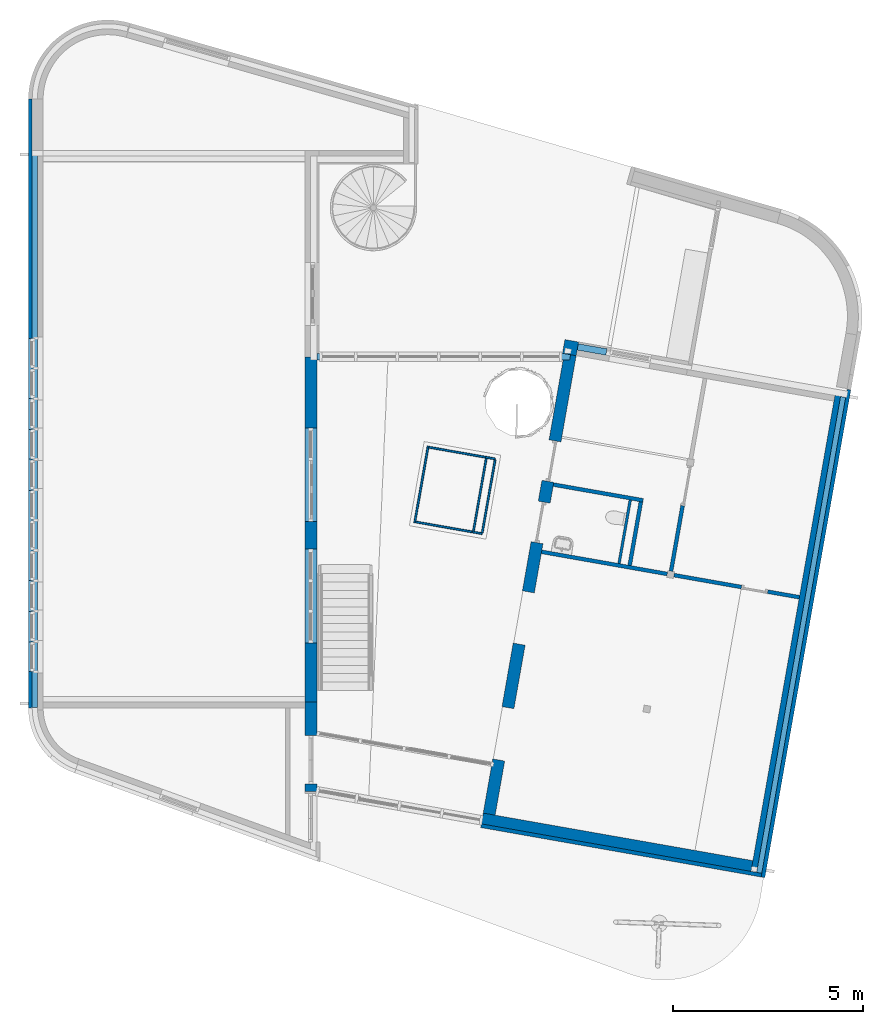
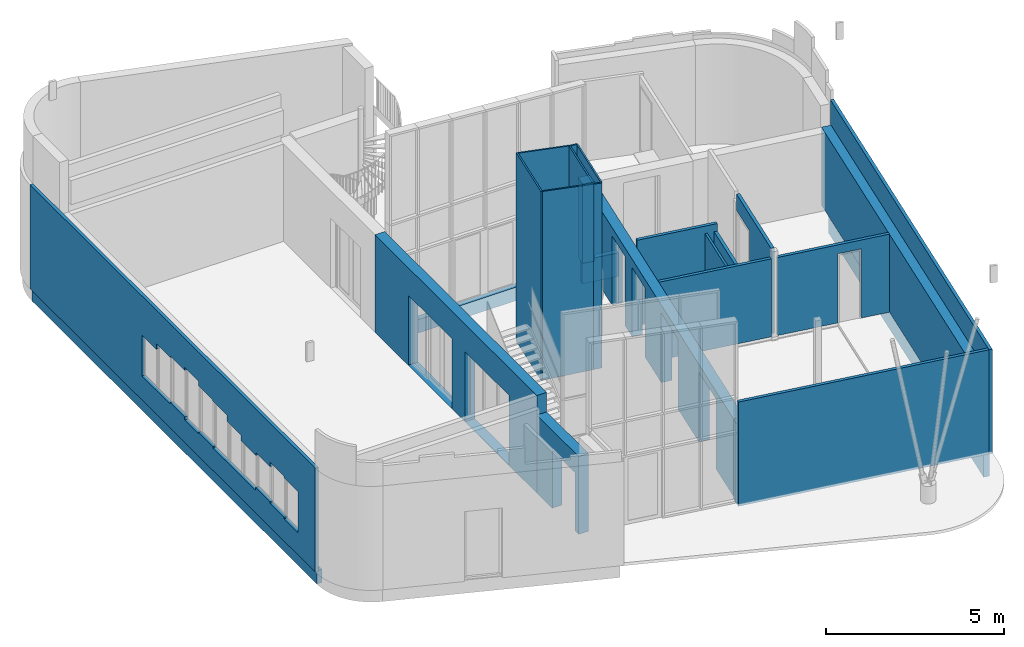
# One storey, part 11 of 21: 26 walls, 11 openings.
"""IFC2X3 building model written with IfcOpenShell, lengths in millimetres."""

from ifc_helpers import new_model, entity, si_unit, converted_unit, derived_unit, direction, frame, frame_2d, origin, origin_2d_with_axis, place, context, subcontext, project, spatial, polyline, rectangle, outline, extrude, clip, bounded_halfspace, material, layer, layer_set, layer_usage, type_object, element, save


model = new_model("IFC2X3")

# Units and contexts
model_context = context("Model", 3, precision=0.01, world=origin(), true_north=direction((6.12303176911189e-17, 1.0)))
body_context = subcontext(model_context, "Body", "Model", "MODEL_VIEW")
ifc_project = project(units=[si_unit("LENGTHUNIT", "METRE", prefix="MILLI"), si_unit("AREAUNIT", "SQUARE_METRE"), si_unit("VOLUMEUNIT", "CUBIC_METRE"), converted_unit("PLANEANGLEUNIT", "DEGREE", entity("IfcRatioMeasure", 0.0174532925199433), si_unit("PLANEANGLEUNIT", "RADIAN"), dimensions=[0, 0, 0, 0, 0, 0, 0]), si_unit("MASSUNIT", "GRAM", prefix="KILO"), derived_unit("MASSDENSITYUNIT", [(si_unit("MASSUNIT", "GRAM", prefix="KILO"), 1), (si_unit("LENGTHUNIT", "METRE"), -3)]), si_unit("TIMEUNIT", "SECOND"), si_unit("FREQUENCYUNIT", "HERTZ"), si_unit("THERMODYNAMICTEMPERATUREUNIT", "DEGREE_CELSIUS"), derived_unit("THERMALTRANSMITTANCEUNIT", [(si_unit("MASSUNIT", "GRAM", prefix="KILO"), 1), (si_unit("THERMODYNAMICTEMPERATUREUNIT", "KELVIN"), -1), (si_unit("TIMEUNIT", "SECOND"), -3)]), derived_unit("VOLUMETRICFLOWRATEUNIT", [(si_unit("LENGTHUNIT", "METRE"), 3), (si_unit("TIMEUNIT", "SECOND"), -1)]), si_unit("ELECTRICCURRENTUNIT", "AMPERE"), si_unit("ELECTRICVOLTAGEUNIT", "VOLT"), si_unit("POWERUNIT", "WATT"), si_unit("FORCEUNIT", "NEWTON", prefix="KILO"), si_unit("ILLUMINANCEUNIT", "LUX"), si_unit("LUMINOUSFLUXUNIT", "LUMEN"), si_unit("LUMINOUSINTENSITYUNIT", "CANDELA"), derived_unit("USERDEFINED", [(si_unit("MASSUNIT", "GRAM", prefix="KILO"), -1), (si_unit("LENGTHUNIT", "METRE"), -2), (si_unit("TIMEUNIT", "SECOND"), 3), (si_unit("LUMINOUSFLUXUNIT", "LUMEN"), 1)]), derived_unit("LINEARVELOCITYUNIT", [(si_unit("LENGTHUNIT", "METRE"), 1), (si_unit("TIMEUNIT", "SECOND"), -1)]), si_unit("PRESSUREUNIT", "PASCAL"), derived_unit("USERDEFINED", [(si_unit("LENGTHUNIT", "METRE"), -2), (si_unit("MASSUNIT", "GRAM", prefix="KILO"), 1), (si_unit("TIMEUNIT", "SECOND"), -2)])], contexts=[model_context])

# Site, building, storey
site_placement = place(None, origin())
site = spatial("IfcSite", under=ifc_project, at=site_placement, Name="<Kadaster Gemeente>;<Kadaster nummer>;<Kadaster sectie>", CompositionType="ELEMENT")
building_placement = place(site_placement, origin())
building = spatial("IfcBuilding", under=site, at=building_placement, Name="JRCZ Middelburg", CompositionType="ELEMENT")
storey_placement = place(building_placement, origin())
storey = spatial("IfcBuildingStorey", under=building, at=storey_placement, Name="00 begane grond", CompositionType="ELEMENT", Elevation=0.0)

# Wall, openings
ifc_material_1 = material(Name="RBM_f7_gips_beplating wand")
ifc_layer_1 = layer(ifc_material_1, 12.5)
ifc_material_2 = material(Name="RBM_i4_multiplex_beplating")
ifc_layer_2 = layer(ifc_material_2, 18.0)
ifc_material_3 = material(Name="isolatie_steenwol_hsb_270")
ifc_layer_3 = layer(ifc_material_3, 270.0)
ifc_layer_4 = layer(ifc_material_2, 18.0)
ifc_layer_set_1 = layer_set([ifc_layer_1, ifc_layer_2, ifc_layer_3, ifc_layer_4], Name="Basic Wall:22_hsb_binnenwand_gips_318,5mm")
ifc_layer_usage_1 = layer_usage(ifc_layer_set_1, "AXIS2", "NEGATIVE", 159.25)
wall_type_1 = type_object("IfcWallType", Name="Basic Wall:22_hsb_binnenwand_gips_318,5mm", PredefinedType="STANDARD", material=ifc_layer_set_1)
wall_1_placement = place(storey_placement, frame((17209.2500000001, 19103.6233878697, -10.0), z_axis=(0.0, 0.0, 1.0), x_axis=(0.0, -1.0, 0.0)))
wall_1 = element("IfcWallStandardCase", 1, at=wall_1_placement, inside=storey, type_object=wall_type_1, material=ifc_layer_usage_1, Name="Basic Wall:22_hsb_binnenwand_gips_318,5mm", ObjectType="Basic Wall:22_hsb_binnenwand_gips_318,5mm", context=body_context, shape_type="SweptSolid", body=[
    extrude(rectangle(XDim=9103.62338786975, YDim=318.500000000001, at=frame_2d((4551.81169393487, 0.0), x_axis=(-1.0, 0.0))), origin(), (0.0, 0.0, 1.0), 3355.0),
])
opening_1_placement = place(storey_placement, frame((17209.2500000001, 19103.6233878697, -10.0), z_axis=(0.0, 0.0, 1.0), x_axis=(0.0, -1.0, 0.0)))
element("IfcOpeningElement", 2, at=opening_1_placement, cuts=wall_1, Name="Basic Wall:22_hsb_binnenwand_gips_318,5mm:1", ObjectType="Opening", context=body_context, shape_type="SweptSolid", body=[
    extrude(outline(polyline([(-668.369513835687, -25.2448096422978), (659.46828483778, -25.2448096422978), (668.371478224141, 25.2448096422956), (-659.470249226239, 25.2448096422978), (-668.369513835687, -25.2448096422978)])), frame((4577.87402907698, 134.005190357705, 2960.0)), (0.0, 0.0, 1.0), 50.0),
])
opening_2_placement = place(wall_1_placement, origin())
element("IfcOpeningElement", 3, at=opening_2_placement, cuts=wall_1, Name="Basic Wall:22_hsb_binnenwand_gips_318,5mm", ObjectType="Opening", context=body_context, shape_type="SweptSolid", body=[
    extrude(rectangle(XDim=2400.0, YDim=2467.0, at=frame_2d((-2.1600499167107e-12, 0.0), x_axis=(0.0, 1.0))), frame((6303.62338817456, -311.649999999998, 1210.0), z_axis=(0.0, 1.0, 0.0), x_axis=(-1.0, 0.0, 0.0)), (0.0, 0.0, 1.0), 623.299999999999),
])
opening_3_placement = place(wall_1_placement, origin())
element("IfcOpeningElement", 4, at=opening_3_placement, cuts=wall_1, Name="Basic Wall:22_hsb_binnenwand_gips_318,5mm", ObjectType="Opening", context=body_context, shape_type="SweptSolid", body=[
    extrude(rectangle(XDim=2400.0, YDim=2467.0, at=frame_2d((2.1600499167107e-12, 0.0), x_axis=(0.0, 1.0))), frame((3103.62338817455, -311.649999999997, 1210.0), z_axis=(0.0, 1.0, 0.0), x_axis=(-1.0, 0.0, 0.0)), (0.0, 0.0, 1.0), 623.299999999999),
])

ifc_layer_usage_2 = layer_usage(ifc_layer_set_1, "AXIS2", "NEGATIVE", 159.25)
wall_2_placement = place(storey_placement, frame((21908.3733252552, 7049.61056927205, 0.0), z_axis=(0.0, 0.0, 1.0), x_axis=(0.17364817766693, 0.984807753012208, 0.0)))
wall_2 = element("IfcWallStandardCase", 5, at=wall_2_placement, inside=storey, type_object=wall_type_1, material=ifc_layer_usage_2, Name="Basic Wall:22_hsb_binnenwand_gips_318,5mm", ObjectType="Basic Wall:22_hsb_binnenwand_gips_318,5mm", context=body_context, shape_type="SweptSolid", body=[
    extrude(rectangle(XDim=12300.0, YDim=318.5, at=frame_2d((6149.99999999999, -8.5265128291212e-13), x_axis=(-1.0, 0.0))), origin(), (0.0, 0.0, 1.0), 2666.0),
])
opening_4_placement = place(wall_2_placement, origin())
element("IfcOpeningElement", 6, at=opening_4_placement, cuts=wall_2, Name="Basic Wall:22_hsb_binnenwand_gips_318,5mm", ObjectType="Opening", context=body_context, shape_type="SweptSolid", body=[
    extrude(rectangle(XDim=2400.0, YDim=1400.00000000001, at=origin_2d_with_axis()), frame((5250.0, -159.25, 1200.0), z_axis=(0.0, 1.0, 0.0), x_axis=(0.0, 0.0, -1.0)), (0.0, 0.0, 1.0), 318.499999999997),
])
opening_5_placement = place(wall_2_placement, origin())
element("IfcOpeningElement", 7, at=opening_5_placement, cuts=wall_2, Name="Basic Wall:22_hsb_binnenwand_gips_318,5mm", ObjectType="Opening", context=body_context, shape_type="SweptSolid", body=[
    extrude(rectangle(XDim=2400.0, YDim=1400.0, at=frame_2d((0.0, -1.02318153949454e-12), x_axis=(1.0, 0.0))), frame((2150.0, -159.249999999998, 1200.0), z_axis=(0.0, 1.0, 0.0), x_axis=(0.0, 0.0, -1.0)), (0.0, 0.0, 1.0), 318.499999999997),
])
opening_6_placement = place(wall_2_placement, frame((-10746.8602479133, 20351.3838779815, 0.0), z_axis=(0.0, 0.0, 1.0), x_axis=(0.17364817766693, -0.984807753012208, 0.0)))
element("IfcOpeningElement", 8, at=opening_6_placement, cuts=wall_2, Name="Basic Wall:22_hsb_binnenwand_gips_318,5mm", ObjectType="Opening", context=body_context, shape_type="SweptSolid", body=[
    extrude(rectangle(XDim=2377.0, YDim=1084.0, at=frame_2d((1.4210854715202e-12, 0.0), x_axis=(0.0, 1.0))), frame((24893.3649851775, 16119.0574850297, 1188.5), z_axis=(-0.984807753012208, 0.17364817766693, 0.0), x_axis=(-0.17364817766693, -0.984807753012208, 0.0)), (0.0, 0.0, 1.0), 3048.0),
])
opening_7_placement = place(wall_2_placement, frame((-10746.8602479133, 20351.3838779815, 0.0), z_axis=(0.0, 0.0, 1.0), x_axis=(0.17364817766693, -0.984807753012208, 0.0)))
element("IfcOpeningElement", 9, at=opening_7_placement, cuts=wall_2, Name="Basic Wall:22_hsb_binnenwand_gips_318,5mm", ObjectType="Opening", context=body_context, shape_type="SweptSolid", body=[
    extrude(rectangle(XDim=2377.0, YDim=1084.0, at=frame_2d((0.0, -1.4210854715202e-12), x_axis=(1.0, 0.0))), frame((24921.8959467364, 14446.6962097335, 1188.5), z_axis=(-0.984807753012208, 0.17364817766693, 0.0), x_axis=(0.0, 0.0, 1.0)), (0.0, 0.0, 1.0), 3048.0),
])

# Wall, opening
ifc_layer_usage_3 = layer_usage(ifc_layer_set_1, "AXIS2", "NEGATIVE", 159.25)
wall_3_placement = place(storey_placement, frame((17209.2500000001, 10000.0, 0.0), z_axis=(0.0, 0.0, 1.0), x_axis=(0.0, -1.0, 0.0)))
wall_3 = element("IfcWallStandardCase", 10, at=wall_3_placement, inside=storey, type_object=wall_type_1, material=ifc_layer_usage_3, Name="Basic Wall:22_hsb_binnenwand_gips_318,5mm", ObjectType="Basic Wall:22_hsb_binnenwand_gips_318,5mm", context=body_context, shape_type="SweptSolid", body=[
    extrude(rectangle(XDim=2351.37637520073, YDim=318.500000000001, at=frame_2d((1175.68818760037, -2.1316282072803e-13), x_axis=(-1.0, 0.0))), origin(), (0.0, 0.0, 1.0), 2676.0),
])
opening_8_placement = place(wall_3_placement, origin())
element("IfcOpeningElement", 11, at=opening_8_placement, cuts=wall_3, Name="Basic Wall:22_hsb_binnenwand_gips_318,5mm", ObjectType="Opening", context=body_context, shape_type="SweptSolid", body=[
    extrude(rectangle(XDim=2000.0, YDim=1280.0, at=frame_2d((0.0, 0.0), x_axis=(0.0, 1.0))), frame((1511.25921397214, -311.65, 1000.0), z_axis=(0.0, 1.0, 0.0), x_axis=(-1.0, 0.0, 0.0)), (0.0, 0.0, 1.0), 623.299999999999),
])

# Walls
ifc_material_4 = material(Name="RBM_a_metalstudwand")
ifc_layer_5 = layer(ifc_material_4, 100.0)
ifc_layer_set_2 = layer_set([ifc_layer_5], Name="Basic Wall:WA_22_metalstud_binnenwand_100mm")
ifc_layer_usage_4 = layer_usage(ifc_layer_set_2, "AXIS2", "NEGATIVE", 50.0)
wall_type_2 = type_object("IfcWallType", Name="Basic Wall:WA_22_metalstud_binnenwand_100mm", PredefinedType="STANDARD", material=ifc_layer_set_2)
wall_4_placement = place(storey_placement, frame((23448.3603228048, 15764.5948268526, 0.0), z_axis=(0.0, 0.0, 1.0), x_axis=(0.984807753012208, -0.173648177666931, 0.0)))
element("IfcWallStandardCase", 12, at=wall_4_placement, inside=storey, type_object=wall_type_2, material=ifc_layer_usage_4, Name="Basic Wall:WA_22_metalstud_binnenwand_100mm", ObjectType="Basic Wall:WA_22_metalstud_binnenwand_100mm", context=body_context, shape_type="Clipping", body=[
    clip(extrude(rectangle(XDim=2400.0, YDim=100.0, at=frame_2d((1356.0, -2.20268248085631e-13), x_axis=(-1.0, 0.0))), origin(), (0.0, 0.0, 1.0), 2936.0), bounded_halfspace(frame((0.0, -50.0, 2936.0), z_axis=(0.0, 0.0, -1.0), x_axis=(0.0, -1.0, 0.0)), True, frame((0.0, -50.0, 2936.0)), polyline([(0.0, 0.0), (2556.0, 0.0), (2556.0, 100.0), (0.0, 100.0), (0.0, 0.0)]))),
])
ifc_layer_usage_5 = layer_usage(ifc_layer_set_2, "AXIS2", "NEGATIVE", 50.0)
wall_5_placement = place(storey_placement, frame((25907.60614297, 15280.1921059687, 0.0), z_axis=(0.0, 0.0, 1.0), x_axis=(-0.173648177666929, -0.984807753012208, 0.0)))
element("IfcWallStandardCase", 13, at=wall_5_placement, inside=storey, type_object=wall_type_2, material=ifc_layer_usage_5, Name="Basic Wall:WA_22_metalstud_binnenwand_100mm", ObjectType="Basic Wall:WA_22_metalstud_binnenwand_100mm", context=body_context, shape_type="SweptSolid", body=[
    extrude(rectangle(XDim=1700.0, YDim=99.999999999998, at=frame_2d((850.000000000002, -7.99360577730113e-13), x_axis=(-1.0, 0.0))), origin(), (0.0, 0.0, 1.0), 2680.0),
])
ifc_layer_usage_6 = layer_usage(ifc_layer_set_2, "AXIS2", "NEGATIVE", 50.0)
wall_6_placement = place(storey_placement, frame((23289.4236124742, 13964.8517557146, 0.0), z_axis=(0.0, 0.0, 1.0), x_axis=(0.984807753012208, -0.173648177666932, 0.0)))
element("IfcWallStandardCase", 14, at=wall_6_placement, inside=storey, type_object=wall_type_2, material=ifc_layer_usage_6, Name="Basic Wall:WA_22_metalstud_binnenwand_100mm", ObjectType="Basic Wall:WA_22_metalstud_binnenwand_100mm", context=body_context, shape_type="SweptSolid", body=[
    extrude(rectangle(XDim=3364.00000000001, YDim=99.9999999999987, at=frame_2d((1682.0, 6.32383034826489e-13), x_axis=(-1.0, 0.0))), origin(), (0.0, 0.0, 1.0), 2680.0),
])

# Wall, opening
ifc_layer_usage_7 = layer_usage(ifc_layer_set_2, "AXIS2", "NEGATIVE", 50.0)
wall_7_placement = place(storey_placement, frame((26779.5822891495, 13349.442614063, 0.0), z_axis=(0.0, 0.0, 1.0), x_axis=(0.984807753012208, -0.173648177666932, 0.0)))
wall_7 = element("IfcWallStandardCase", 15, at=wall_7_placement, inside=storey, type_object=wall_type_2, material=ifc_layer_usage_7, Name="Basic Wall:WA_22_metalstud_binnenwand_100mm", ObjectType="Basic Wall:WA_22_metalstud_binnenwand_100mm", context=body_context, shape_type="SweptSolid", body=[
    extrude(rectangle(XDim=3356.0, YDim=99.9999999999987, at=frame_2d((1678.0, -1.06581410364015e-14), x_axis=(-1.0, 0.0))), origin(), (0.0, 0.0, 1.0), 2680.0),
])
opening_9_placement = place(wall_7_placement, frame((-24054.6338779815, -17796.8602479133, 0.0), z_axis=(0.0, 0.0, 1.0), x_axis=(0.984807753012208, 0.173648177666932, 0.0)))
element("IfcOpeningElement", 16, at=opening_9_placement, cuts=wall_7, Name="Basic Wall:WA_22_metalstud_binnenwand_100mm", ObjectType="Opening", context=body_context, shape_type="SweptSolid", body=[
    extrude(rectangle(XDim=2377.0, YDim=704.000000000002, at=frame_2d((0.0, 2.1316282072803e-12), x_axis=(1.0, 0.0))), frame((28648.8400062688, 11523.1032187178, 1188.5), z_axis=(0.173648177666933, 0.984807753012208, 0.0), x_axis=(0.0, 0.0, 1.0)), (0.0, 0.0, 1.0), 3048.0),
])

ifc_layer_usage_8 = layer_usage(ifc_layer_set_2, "AXIS2", "NEGATIVE", 50.0)
wall_8_placement = place(storey_placement, frame((27194.9312800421, 16246.3282203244, 0.0), z_axis=(0.0, 0.0, 1.0), x_axis=(-0.173648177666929, -0.984807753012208, 0.0)))
wall_8 = element("IfcWallStandardCase", 17, at=wall_8_placement, inside=storey, type_object=wall_type_2, material=ifc_layer_usage_8, Name="Basic Wall:WA_22_metalstud_binnenwand_100mm", ObjectType="Basic Wall:WA_22_metalstud_binnenwand_100mm", context=body_context, shape_type="Clipping", body=[
    clip(extrude(rectangle(XDim=2835.0, YDim=99.9999999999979, at=frame_2d((1417.5, 7.24753590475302e-13), x_axis=(-1.0, 0.0))), origin(), (0.0, 0.0, 1.0), 2936.0), bounded_halfspace(frame((0.0, -50.0, 2936.0), z_axis=(0.0, 0.0, -1.0), x_axis=(1.0, 0.0, 0.0)), True, frame((0.0, -50.0, 2936.0)), polyline([(0.0, 0.0), (2835.0, 0.0), (2835.0, 100.0), (0.0, 100.0), (0.0, 0.0)]))),
])
opening_10_placement = place(wall_8_placement, frame((20721.8602479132, -23960.6338779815, 0.0), z_axis=(0.0, 0.0, 1.0), x_axis=(-0.173648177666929, 0.984807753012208, 0.0)))
element("IfcOpeningElement", 18, at=opening_10_placement, cuts=wall_8, Name="Basic Wall:WA_22_metalstud_binnenwand_100mm", ObjectType="Opening", context=body_context, shape_type="SweptSolid", body=[
    extrude(rectangle(XDim=2377.0, YDim=1084.0, at=frame_2d((0.0, 1.4210854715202e-12), x_axis=(1.0, 0.0))), frame((25550.7265645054, 15985.8846498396, 1188.5), z_axis=(0.984807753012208, -0.17364817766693, 0.0), x_axis=(0.0, 0.0, 1.0)), (0.0, 0.0, 1.0), 3048.0),
])

# Walls
ifc_layer_6 = layer(ifc_material_3, 270.0)
ifc_layer_7 = layer(ifc_material_2, 18.0)
ifc_layer_set_3 = layer_set([ifc_layer_6, ifc_layer_7], Name="Basic Wall:RBM_21_WA_hsb_288mm")
ifc_layer_usage_9 = layer_usage(ifc_layer_set_3, "AXIS2", "NEGATIVE", 144.0)
wall_type_3 = type_object("IfcWallType", Name="Basic Wall:RBM_21_WA_hsb_288mm", PredefinedType="STANDARD", material=ifc_layer_set_3)
wall_9_placement = place(storey_placement, frame((31191.1986998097, 18213.2658679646, -10.0), z_axis=(0.0, 0.0, 1.0), x_axis=(-0.17364817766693, -0.984807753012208, 0.0)))
element("IfcWallStandardCase", 19, at=wall_9_placement, inside=storey, type_object=wall_type_3, material=ifc_layer_usage_9, Name="Basic Wall:RBM_21_WA_hsb_288mm", ObjectType="Basic Wall:RBM_21_WA_hsb_288mm", context=body_context, shape_type="SweptSolid", body=[
    extrude(rectangle(XDim=12894.0, YDim=288.0, at=frame_2d((6447.0, -5.40012479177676e-13), x_axis=(-1.0, 0.0))), origin(), (0.0, 0.0, 1.0), 2676.0),
])
ifc_layer_usage_10 = layer_usage(ifc_layer_set_3, "AXIS2", "NEGATIVE", 144.0)
wall_10_placement = place(storey_placement, frame((28835.3721181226, 5681.97235464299, -80.0), z_axis=(0.0, 0.0, 1.0), x_axis=(-0.984807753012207, 0.173648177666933, 0.0)))
element("IfcWallStandardCase", 20, at=wall_10_placement, inside=storey, type_object=wall_type_3, material=ifc_layer_usage_10, Name="Basic Wall:RBM_21_WA_hsb_288mm", ObjectType="Basic Wall:RBM_21_WA_hsb_288mm", context=body_context, shape_type="SweptSolid", body=[
    extrude(rectangle(XDim=7218.50000000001, YDim=288.0, at=frame_2d((3609.25, -1.4210854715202e-13), x_axis=(-1.0, 0.0))), origin(), (0.0, 0.0, 1.0), 2746.0),
])
ifc_layer_8 = layer(ifc_material_1, 12.5)
ifc_material_5 = material(Name="RBM_n7_isolatie_MS45")
ifc_layer_9 = layer(ifc_material_5, 45.0)
ifc_layer_10 = layer(ifc_material_1, 12.5)
ifc_layer_set_4 = layer_set([ifc_layer_8, ifc_layer_9, ifc_layer_10], Name="Basic Wall:22_RBM_WA_metalstud_70_12.5-45-12.5")
ifc_layer_usage_11 = layer_usage(ifc_layer_set_4, "AXIS2", "POSITIVE", -35.0)
wall_type_4 = type_object("IfcWallType", Name="Basic Wall:22_RBM_WA_metalstud_70_12.5-45-12.5", PredefinedType="STANDARD", material=ifc_layer_set_4)
wall_11_placement = place(storey_placement, frame((25626.9359333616, 15329.6818366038, 0.0), z_axis=(0.0, 0.0, 1.0), x_axis=(-0.17364817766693, -0.984807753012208, 0.0)))
element("IfcWallStandardCase", 21, at=wall_11_placement, inside=storey, type_object=wall_type_4, material=ifc_layer_usage_11, Name="Basic Wall:22_RBM_WA_metalstud_70_12.5-45-12.5", ObjectType="Basic Wall:22_RBM_WA_metalstud_70_12.5-45-12.5", context=body_context, shape_type="SweptSolid", body=[
    extrude(rectangle(XDim=1700.0, YDim=70.0000000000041, at=frame_2d((850.000000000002, 1.81543668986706e-12), x_axis=(-1.0, 0.0))), origin(), (0.0, 0.0, 1.0), 2680.0),
])
ifc_material_6 = material(Name="RBM_o1_glas_helder")
ifc_layer_11 = layer(ifc_material_6, 50.0)
ifc_layer_set_5 = layer_set([ifc_layer_11], Name="Basic Wall:22_RBM_WA_ontwerpwand-40mm_transparant")
ifc_layer_usage_12 = layer_usage(ifc_layer_set_5, "AXIS2", "NEGATIVE", 25.0)
wall_type_5 = type_object("IfcWallType", Name="Basic Wall:22_RBM_WA_ontwerpwand-40mm_transparant", PredefinedType="STANDARD", material=ifc_layer_set_5)
wall_12_placement = place(storey_placement, frame((19944.4385402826, 14731.0452868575, -20.0), z_axis=(0.0, 0.0, 1.0), x_axis=(0.17364817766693, 0.984807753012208, 0.0)))
element("IfcWallStandardCase", 22, at=wall_12_placement, inside=storey, type_object=wall_type_5, material=ifc_layer_usage_12, Name="Basic Wall:22_RBM_WA_ontwerpwand-40mm_transparant", ObjectType="Basic Wall:22_RBM_WA_ontwerpwand-40mm_transparant", context=body_context, shape_type="Clipping", body=[
    clip(extrude(rectangle(XDim=2050.0, YDim=49.9999999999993, at=frame_2d((1025.0, 1.48325796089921e-12), x_axis=(-1.0, 0.0))), origin(), (0.0, 0.0, 1.0), 6486.76741281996), bounded_halfspace(frame((0.0, -25.0, 6483.01741281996), z_axis=(0.0, 0.0747899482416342, -0.997199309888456), x_axis=(0.0, 0.997199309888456, 0.0747899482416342)), True, frame((0.0, -25.0, 6483.01741281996)), polyline([(0.0, 0.0), (50.0, 0.0), (2000.0, 0.0), (2050.0, 0.0), (2050.0, 50.0), (0.0, 50.0), (0.0, 0.0)]))),
])
ifc_layer_usage_13 = layer_usage(ifc_layer_set_5, "AXIS2", "NEGATIVE", 25.0)
wall_13_placement = place(storey_placement, frame((20320.6962938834, 16720.9397822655, -20.0), z_axis=(0.0, 0.0, 1.0), x_axis=(0.984807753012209, -0.173648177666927, 0.0)))
element("IfcWallStandardCase", 23, at=wall_13_placement, inside=storey, type_object=wall_type_5, material=ifc_layer_usage_13, Name="Basic Wall:22_RBM_WA_ontwerpwand-40mm_transparant", ObjectType="Basic Wall:22_RBM_WA_ontwerpwand-40mm_transparant", context=body_context, shape_type="Clipping", body=[
    clip(extrude(outline(polyline([(1513.51621898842, -25.0), (1513.507698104, 25.0), (0.0, 25.0), (0.0, -25.0), (1513.51621898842, -25.0)])), origin(), (0.0, 0.0, 1.0), 6483.01741281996), bounded_halfspace(frame((0.0, -25.0, 6483.01741281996), z_axis=(-0.0747899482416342, 0.0, -0.997199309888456), x_axis=(-0.997199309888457, 0.0, 0.0747899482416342)), True, frame((0.0, -25.0, 6483.01741281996)), polyline([(0.0, 0.0), (1513.51621898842, 0.0), (1513.50769810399, 50.0), (0.0, 50.0), (0.0, 0.0)]))),
])
ifc_layer_usage_14 = layer_usage(ifc_layer_set_5, "AXIS2", "NEGATIVE", 25.0)
wall_14_placement = place(storey_placement, frame((21464.2581026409, 14488.4457575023, -20.0), z_axis=(0.0, 0.0, 1.0), x_axis=(-0.984807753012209, 0.173648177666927, 0.0)))
element("IfcWallStandardCase", 24, at=wall_14_placement, inside=storey, type_object=wall_type_5, material=ifc_layer_usage_14, Name="Basic Wall:22_RBM_WA_ontwerpwand-40mm_transparant", ObjectType="Basic Wall:22_RBM_WA_ontwerpwand-40mm_transparant", context=body_context, shape_type="Clipping", body=[
    clip(extrude(outline(polyline([(1513.85705436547, -25.0), (1513.85705436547, 25.0), (0.0, 25.0), (0.00852088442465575, -25.0), (1513.85705436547, -25.0)])), origin(), (0.0, 0.0, 1.0), 6483.01741281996), bounded_halfspace(frame((0.00852088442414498, -25.0, 6369.47877280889), z_axis=(0.0747899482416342, 0.0, -0.997199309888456), x_axis=(0.997199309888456, 0.0, 0.0747899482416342)), True, frame((0.00852088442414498, -25.0, 6369.47877280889)), polyline([(0.0, 0.0), (1513.84853348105, 0.0), (1513.84853348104, 50.0), (-0.00852088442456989, 50.0), (0.0, 0.0)]))),
])
ifc_material_7 = material(Name="<Unnamed>")
ifc_layer_12 = layer(ifc_material_7, 50.0)
ifc_layer_set_6 = layer_set([ifc_layer_12], Name="Basic Wall:22_RBM_WA_ontwerpwand-40mm")
ifc_layer_usage_15 = layer_usage(ifc_layer_set_6, "AXIS2", "NEGATIVE", 25.0)
wall_type_6 = type_object("IfcWallType", Name="Basic Wall:22_RBM_WA_ontwerpwand-40mm", PredefinedType="STANDARD", material=ifc_layer_set_6)
wall_15_placement = place(storey_placement, frame((21721.4337001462, 14443.0987608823, -20.0), z_axis=(0.0, 0.0, 1.0), x_axis=(-0.984807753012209, 0.173648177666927, 0.0)))
element("IfcWallStandardCase", 25, at=wall_15_placement, inside=storey, type_object=wall_type_6, material=ifc_layer_usage_15, Name="Basic Wall:22_RBM_WA_ontwerpwand-40mm", ObjectType="Basic Wall:22_RBM_WA_ontwerpwand-40mm", context=body_context, shape_type="Clipping", body=[
    clip(extrude(outline(polyline([(261.151466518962, -25.0), (261.142945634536, 25.0), (0.0, 25.0), (0.0, -25.0), (25.0, -25.0), (211.151465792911, -25.0), (261.151466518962, -25.0)])), origin(), (0.0, 0.0, 1.0), 6369.47877280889), bounded_halfspace(frame((0.0, -25.0, 6349.89241281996), z_axis=(0.0747899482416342, 0.0, -0.997199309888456), x_axis=(0.997199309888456, 0.0, 0.0747899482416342)), True, frame((0.0, -25.0, 6349.89241281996)), polyline([(0.0, 0.0), (25.0, 0.0), (211.151465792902, 0.0), (261.15146651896, 0.0), (261.142945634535, 50.0), (0.0, 50.0), (0.0, 0.0)]))),
])
ifc_layer_usage_16 = layer_usage(ifc_layer_set_6, "AXIS2", "NEGATIVE", 25.0)
wall_16_placement = place(storey_placement, frame((22064.3888510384, 16388.0940730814, -20.0), z_axis=(0.0, 0.0, 1.0), x_axis=(-0.17364817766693, -0.984807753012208, 0.0)))
element("IfcWallStandardCase", 26, at=wall_16_placement, inside=storey, type_object=wall_type_6, material=ifc_layer_usage_16, Name="Basic Wall:22_RBM_WA_ontwerpwand-40mm", ObjectType="Basic Wall:22_RBM_WA_ontwerpwand-40mm", context=body_context, shape_type="Clipping", body=[
    clip(extrude(rectangle(XDim=1950.00000000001, YDim=49.9999999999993, at=frame_2d((975.000000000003, 8.06466005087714e-13), x_axis=(-1.0, 0.0))), origin(), (0.0, 0.0, 1.0), 6351.76741281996), bounded_halfspace(frame((0.0, -25.0, 6351.76741281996), z_axis=(0.0, -0.0747899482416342, -0.997199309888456), x_axis=(0.0, -0.997199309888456, 0.0747899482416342)), True, frame((0.0, -25.0, 6351.76741281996)), polyline([(0.0, 0.0), (1950.0, 0.0), (1950.0, 25.0), (1950.0, 50.0), (0.0, 50.0), (0.0, 0.0)]))),
])
ifc_layer_usage_17 = layer_usage(ifc_layer_set_6, "AXIS2", "NEGATIVE", 25.0)
wall_17_placement = place(storey_placement, frame((21811.2104092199, 16458.1219286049, -20.0), z_axis=(0.0, 0.0, 1.0), x_axis=(0.984807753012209, -0.173648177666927, 0.0)))
element("IfcWallStandardCase", 27, at=wall_17_placement, inside=storey, type_object=wall_type_6, material=ifc_layer_usage_17, Name="Basic Wall:22_RBM_WA_ontwerpwand-40mm", ObjectType="Basic Wall:22_RBM_WA_ontwerpwand-40mm", context=body_context, shape_type="SweptSolid", body=[
    extrude(outline(polyline([(261.492301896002, -25.0), (261.492301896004, 25.0), (0.0, 25.0), (0.00852088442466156, -25.0), (50.0085216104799, -25.0), (236.492301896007, -25.0), (261.492301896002, -25.0)])), origin(), (0.0, 0.0, 1.0), 6363.36677278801),
])
ifc_layer_usage_18 = layer_usage(ifc_layer_set_6, "AXIS2", "NEGATIVE", 25.0)
wall_18_placement = place(storey_placement, frame((21493.2103707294, 14508.7220306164, -20.0), z_axis=(0.0, 0.0, 1.0), x_axis=(0.173480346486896, 0.984837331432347, 0.0)))
element("IfcWallStandardCase", 28, at=wall_18_placement, inside=storey, type_object=wall_type_6, material=ifc_layer_usage_18, Name="Basic Wall:22_RBM_WA_ontwerpwand-40mm", ObjectType="Basic Wall:22_RBM_WA_ontwerpwand-40mm", context=body_context, shape_type="Clipping", body=[
    clip(extrude(outline(polyline([(1950.00002831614, -25.0), (1950.00854920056, 25.0), (0.00852088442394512, 25.0), (0.0, -25.0), (1950.00002831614, -25.0)])), origin(), (0.0, 0.0, 1.0), 6369.50369639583), bounded_halfspace(frame((0.0, -25.0, 6365.72877275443), z_axis=(1.27455299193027e-05, 0.0747899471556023, -0.997199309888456), x_axis=(0.00016994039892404, 0.997199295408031, 0.0747899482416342)), True, frame((0.0, -25.0, 6365.72877275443)), polyline([(0.0, 0.0), (1950.00002831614, 0.0), (1950.00854920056, 50.0), (0.00852088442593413, 50.0), (0.0, 0.0)]))),
])
ifc_material_8 = material(Name="geisoleerde cementvezelplaat")
ifc_layer_13 = layer(ifc_material_8, 20.0)
ifc_material_9 = material(Name="RBM_n7_isolatie_resol")
ifc_layer_14 = layer(ifc_material_9, 150.0)
ifc_layer_set_7 = layer_set([ifc_layer_13, ifc_layer_14], Name="Basic Wall:RBM_21_WA_170mm_geïsoleerde_kantplank")
ifc_layer_usage_19 = layer_usage(ifc_layer_set_7, "AXIS2", "NEGATIVE", 85.0)
wall_type_7 = type_object("IfcWallType", Name="Basic Wall:RBM_21_WA_170mm_geïsoleerde_kantplank", PredefinedType="STANDARD", material=ifc_layer_set_7)
wall_19_placement = place(storey_placement, frame((9915.0, 9866.96916420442, -520.0), z_axis=(0.0, 0.0, 1.0), x_axis=(0.0, 1.0, 0.0)))
element("IfcWallStandardCase", 29, at=wall_19_placement, inside=storey, type_object=wall_type_7, material=ifc_layer_usage_19, Name="Basic Wall:RBM_21_WA_170mm_geïsoleerde_kantplank", ObjectType="Basic Wall:RBM_21_WA_170mm_geïsoleerde_kantplank", context=body_context, shape_type="SweptSolid", body=[
    extrude(outline(polyline([(16030.1434299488, -85.0), (16030.1434299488, 85.0), (0.0, 85.0), (0.312299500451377, -85.0), (16030.1434299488, -85.0)])), origin(), (0.0, 0.0, 1.0), 450.0),
])
ifc_layer_usage_20 = layer_usage(ifc_layer_set_7, "AXIS2", "NEGATIVE", 85.0)
wall_20_placement = place(storey_placement, frame((31253.7270896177, 18043.833874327, -890.0), z_axis=(0.0, 0.0, 1.0), x_axis=(-0.17364817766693, -0.984807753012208, 0.0)))
element("IfcWallStandardCase", 30, at=wall_20_placement, inside=storey, type_object=wall_type_7, material=ifc_layer_usage_20, Name="Basic Wall:RBM_21_WA_170mm_geïsoleerde_kantplank", ObjectType="Basic Wall:RBM_21_WA_170mm_geïsoleerde_kantplank", context=body_context, shape_type="SweptSolid", body=[
    extrude(rectangle(XDim=12770.0, YDim=170.000000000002, at=frame_2d((6384.99999999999, -2.62900812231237e-13), x_axis=(-1.0, 0.0))), origin(), (0.0, 0.0, 1.0), 880.000000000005),
])
ifc_layer_usage_21 = layer_usage(ifc_layer_set_7, "AXIS2", "NEGATIVE", 85.0)
wall_21_placement = place(storey_placement, frame((17370.0, 19112.6233878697, -460.0)))
element("IfcWallStandardCase", 31, at=wall_21_placement, inside=storey, type_object=wall_type_7, material=ifc_layer_usage_21, Name="Basic Wall:RBM_21_WA_170mm_geïsoleerde_kantplank", ObjectType="Basic Wall:RBM_21_WA_170mm_geïsoleerde_kantplank", context=body_context, shape_type="SweptSolid", body=[
    extrude(outline(polyline([(0.0, 85.0), (0.0, -85.0), (1871.00719844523, -85.0), (6659.81285660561, -85.0), (6689.78844332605, 85.0), (0.0, 85.0)])), origin(), (0.0, 0.0, 1.0), 460.000000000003),
])
ifc_layer_usage_22 = layer_usage(ifc_layer_set_7, "AXIS2", "NEGATIVE", 85.0)
wall_22_placement = place(storey_placement, frame((23926.7453860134, 19422.08969784, -890.0), z_axis=(0.0, 0.0, 1.0), x_axis=(0.984807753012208, -0.173648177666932, 0.0)))
element("IfcWallStandardCase", 32, at=wall_22_placement, inside=storey, type_object=wall_type_7, material=ifc_layer_usage_22, Name="Basic Wall:RBM_21_WA_170mm_geïsoleerde_kantplank", ObjectType="Basic Wall:RBM_21_WA_170mm_geïsoleerde_kantplank", context=body_context, shape_type="SweptSolid", body=[
    extrude(rectangle(XDim=1088.3149361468, YDim=170.000000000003, at=frame_2d((544.1574680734, 3.83693077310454e-13), x_axis=(-1.0, 0.0))), origin(), (0.0, 0.0, 1.0), 810.000000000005),
])
ifc_material_10 = material(Name="steenachtig_ntb_plaat_antraciet")
ifc_layer_15 = layer(ifc_material_10, 8.0)
ifc_material_11 = material(Name="ISR_Luchtspouw")
ifc_layer_16 = layer(ifc_material_11, 35.0)
ifc_layer_17 = layer(ifc_material_11, 35.0)
ifc_layer_18 = layer(ifc_material_3, 270.0)
ifc_layer_19 = layer(ifc_material_2, 18.0)
ifc_layer_set_8 = layer_set([ifc_layer_15, ifc_layer_16, ifc_layer_17, ifc_layer_18, ifc_layer_19], Name="Basic Wall:RBM_21_WA_hsb_ rockpanel_366mm")
ifc_layer_usage_23 = layer_usage(ifc_layer_set_8, "AXIS2", "NEGATIVE", 183.0)
wall_type_8 = type_object("IfcWallType", Name="Basic Wall:RBM_21_WA_hsb_ rockpanel_366mm", PredefinedType="STANDARD", material=ifc_layer_set_8)
wall_23_placement = place(storey_placement, frame((24020.8567264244, 19166.8700755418, -80.0), z_axis=(0.0, 0.0, 1.0), x_axis=(0.17364817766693, 0.984807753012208, 0.0)))
element("IfcWallStandardCase", 33, at=wall_23_placement, inside=storey, type_object=wall_type_8, material=ifc_layer_usage_23, Name="Basic Wall:RBM_21_WA_hsb_ rockpanel_366mm", ObjectType="Basic Wall:RBM_21_WA_hsb_ rockpanel_366mm", context=body_context, shape_type="SweptSolid", body=[
    extrude(rectangle(XDim=366.000000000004, YDim=365.999999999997, at=frame_2d((183.000000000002, 1.17950094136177e-12), x_axis=(-1.0, 0.0))), origin(), (0.0, 0.0, 1.0), 2725.0),
])

# Wall, opening
ifc_material_12 = material(Name="hout_accoya_schubben")
ifc_layer_20 = layer(ifc_material_12, 30.0)
ifc_material_13 = material(Name="hout_vuren_regel")
ifc_layer_21 = layer(ifc_material_13, 35.0)
ifc_layer_22 = layer(ifc_material_13, 35.0)
ifc_layer_set_9 = layer_set([ifc_layer_20, ifc_layer_21, ifc_layer_22], Name="Basic Wall:RBM_21_WA_gevelbekleding op regelwerk_100mm")
ifc_layer_usage_24 = layer_usage(ifc_layer_set_9, "AXIS2", "NEGATIVE", 50.0)
wall_type_9 = type_object("IfcWallType", Name="Basic Wall:RBM_21_WA_gevelbekleding op regelwerk_100mm", PredefinedType="STANDARD", material=ifc_layer_set_9)
wall_24_placement = place(storey_placement, frame((9812.0, 9843.49740647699, -70.0), z_axis=(0.0, 0.0, 1.0), x_axis=(0.0, 1.0, 0.0)))
wall_24 = element("IfcWallStandardCase", 34, at=wall_24_placement, inside=storey, type_object=wall_type_9, material=ifc_layer_usage_24, Name="Basic Wall:RBM_21_WA_gevelbekleding op regelwerk_100mm", ObjectType="Basic Wall:RBM_21_WA_gevelbekleding op regelwerk_100mm", context=body_context, shape_type="SweptSolid", body=[
    extrude(outline(polyline([(-41.4699610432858, -8026.96162850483), (58.5300954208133, -8026.96162850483), (41.4698430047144, 8027.07270513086), (-58.529977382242, 8026.8505518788), (-41.4699610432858, -8026.96162850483)])), frame((8027.02410369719, 0.0, 0.0), z_axis=(0.0, 0.0, 1.0), x_axis=(0.00106267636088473, 0.999999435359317, 0.0)), (0.0, 0.0, 1.0), 3570.0),
])
opening_11_placement = place(storey_placement, frame((9812.0, 9843.49740647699, -70.0), z_axis=(0.0, 0.0, 1.0), x_axis=(0.0, 1.0, 0.0)))
element("IfcOpeningElement", 35, at=opening_11_placement, cuts=wall_24, Name="Basic Wall:RBM_21_WA_gevelbekleding op regelwerk_100mm:1", ObjectType="Opening", context=body_context, shape_type="SweptSolid", body=[
    extrude(outline(polyline([(557.894736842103, -3693.42105263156), (757.894736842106, -3693.42105263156), (757.894736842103, -2893.42105263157), (807.894736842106, -2893.42105263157), (807.894736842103, -2093.42105263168), (907.894736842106, -2093.42105263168), (907.894736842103, -1318.42105263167), (757.894736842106, -1318.42105263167), (757.894736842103, -518.421052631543), (707.894736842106, -518.421052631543), (707.894736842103, 281.578947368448), (507.894736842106, 281.578947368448), (507.894736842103, 1081.57894736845), (307.894736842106, 1081.57894736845), (307.894736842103, 1906.57894736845), (407.894736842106, 1906.57894736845), (407.894736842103, 2706.57894736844), (557.894736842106, 2706.57894736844), (557.894736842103, 3481.57894736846), (507.894736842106, 3481.57894736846), (507.894736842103, 4281.57894736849), (-892.105263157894, 4281.57894736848), (-892.105263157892, 3506.57894736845), (-842.105263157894, 3506.57894736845), (-842.105263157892, 2706.57894736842), (-792.105263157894, 2706.57894736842), (-792.105263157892, 1881.57894736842), (-892.105263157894, 1881.57894736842), (-892.105263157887, -493.421052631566), (-842.105263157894, -493.421052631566), (-842.105263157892, -1318.42105263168), (-892.105263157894, -1318.42105263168), (-892.105263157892, -2093.42105263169), (-792.105263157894, -2093.42105263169), (-792.105263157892, -2918.42105263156), (-842.105263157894, -2918.42105263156), (-842.105263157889, -4493.42105263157), (557.894736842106, -4493.42105263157), (557.894736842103, -3693.42105263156)])), frame((5250.58154089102, 50.0, 1662.10526315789), z_axis=(0.0, -1.0, 0.0), x_axis=(0.0, 0.0, 1.0)), (0.0, 0.0, 1.0), 99.9999999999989),
])

# Walls
ifc_layer_usage_25 = layer_usage(ifc_layer_set_9, "AXIS2", "NEGATIVE", 50.0)
wall_25_placement = place(storey_placement, frame((29085.3090045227, 5440.90897539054, -80.0), z_axis=(0.0, 0.0, 1.0), x_axis=(-0.984807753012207, 0.173648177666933, 0.0)))
element("IfcWallStandardCase", 36, at=wall_25_placement, inside=storey, type_object=wall_type_9, material=ifc_layer_usage_25, Name="Basic Wall:RBM_21_WA_gevelbekleding op regelwerk_100mm", ObjectType="Basic Wall:RBM_21_WA_gevelbekleding op regelwerk_100mm", context=body_context, shape_type="SweptSolid", body=[
    extrude(rectangle(XDim=7506.50000000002, YDim=100.000000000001, at=frame_2d((3753.25000000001, -1.95399252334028e-13), x_axis=(-1.0, 0.0))), origin(), (0.0, 0.0, 1.0), 3580.0),
])
ifc_layer_23 = layer(ifc_material_12, 30.0)
ifc_layer_24 = layer(ifc_material_13, 35.0)
ifc_layer_25 = layer(ifc_material_13, 35.0)
ifc_layer_set_10 = layer_set([ifc_layer_23, ifc_layer_24, ifc_layer_25], Name="Basic Wall:RBM_21_WA_gevelafwerking op regelwerk_100mm")
ifc_layer_usage_26 = layer_usage(ifc_layer_set_10, "AXIS2", "NEGATIVE", 50.0)
wall_type_10 = type_object("IfcWallType", Name="Basic Wall:RBM_21_WA_gevelafwerking op regelwerk_100mm", PredefinedType="STANDARD", material=ifc_layer_set_10)
wall_26_placement = place(storey_placement, frame((31392.6702945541, 18238.666586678, -80.0), z_axis=(0.0, 0.0, 1.0), x_axis=(-0.173648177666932, -0.984807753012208, 0.0)))
element("IfcWallStandardCase", 37, at=wall_26_placement, inside=storey, type_object=wall_type_10, material=ifc_layer_usage_26, Name="Basic Wall:RBM_21_WA_gevelafwerking op regelwerk_100mm", ObjectType="Basic Wall:RBM_21_WA_gevelafwerking op regelwerk_100mm", context=body_context, shape_type="SweptSolid", body=[
    extrude(rectangle(XDim=13054.0, YDim=99.9999999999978, at=frame_2d((6527.0, -1.77635683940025e-14), x_axis=(-1.0, 0.0))), origin(), (0.0, 0.0, 1.0), 3580.0),
])

save(model, "model.ifc")
